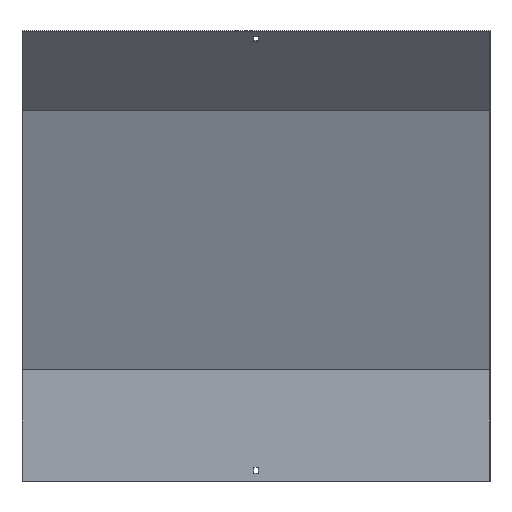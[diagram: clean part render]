
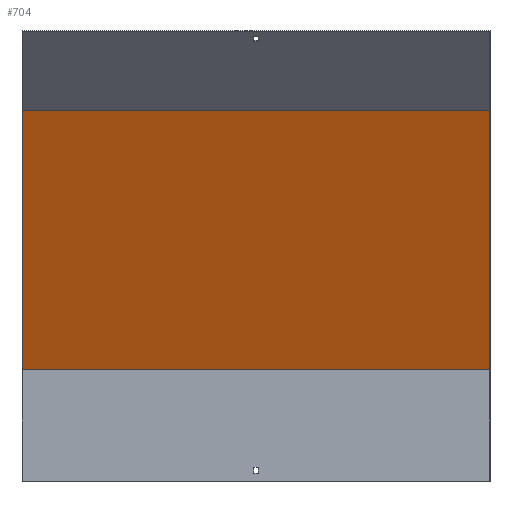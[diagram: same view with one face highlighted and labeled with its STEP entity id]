
A CAD part, front view. The second image highlights one B-rep face of the part: STEP entity #704.
In plain terms, the highlighted planar face has unit normal (0, -0.924, -0.383).
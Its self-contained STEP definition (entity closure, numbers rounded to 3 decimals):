
#5 = ORIENTED_EDGE ( 'NONE', *, *, #666, .T. ) ;
#10 = CARTESIAN_POINT ( 'NONE',  ( -350., -142.365, 557.042 ) ) ;
#42 = CARTESIAN_POINT ( 'NONE',  ( -350., 18.5, 168.68 ) ) ;
#65 = LINE ( 'NONE', #398, #214 ) ;
#85 = LINE ( 'NONE', #142, #645 ) ;
#100 = DIRECTION ( 'NONE',  ( 0., -0.383, 0.924 ) ) ;
#137 = CARTESIAN_POINT ( 'NONE',  ( 350., 75.428, 31.243 ) ) ;
#142 = CARTESIAN_POINT ( 'NONE',  ( 351.5, 18.5, 168.68 ) ) ;
#149 = CARTESIAN_POINT ( 'NONE',  ( 351.5, 17.092, 172.08 ) ) ;
#158 = EDGE_CURVE ( 'NONE', #798, #558, #813, .T. ) ;
#160 = PLANE ( 'NONE',  #848 ) ;
#197 = VERTEX_POINT ( 'NONE', #547 ) ;
#213 = LINE ( 'NONE', #137, #310 ) ;
#214 = VECTOR ( 'NONE', #401, 1000. ) ;
#310 = VECTOR ( 'NONE', #681, 1000. ) ;
#332 = ORIENTED_EDGE ( 'NONE', *, *, #158, .F. ) ;
#348 = ORIENTED_EDGE ( 'NONE', *, *, #625, .F. ) ;
#392 = EDGE_LOOP ( 'NONE', ( #332, #348, #5, #729 ) ) ;
#398 = CARTESIAN_POINT ( 'NONE',  ( 351.5, -142.365, 557.042 ) ) ;
#401 = DIRECTION ( 'NONE',  ( -1., 0., 0. ) ) ;
#421 = DIRECTION ( 'NONE',  ( 0., 0.383, -0.924 ) ) ;
#467 = EDGE_CURVE ( 'NONE', #613, #558, #65, .T. ) ;
#547 = CARTESIAN_POINT ( 'NONE',  ( 350., 18.5, 168.68 ) ) ;
#552 = FACE_OUTER_BOUND ( 'NONE', #392, .T. ) ;
#558 = VERTEX_POINT ( 'NONE', #10 ) ;
#613 = VERTEX_POINT ( 'NONE', #620 ) ;
#620 = CARTESIAN_POINT ( 'NONE',  ( 350., -142.365, 557.042 ) ) ;
#625 = EDGE_CURVE ( 'NONE', #197, #798, #85, .T. ) ;
#630 = VECTOR ( 'NONE', #100, 1000. ) ;
#645 = VECTOR ( 'NONE', #801, 1000. ) ;
#666 = EDGE_CURVE ( 'NONE', #197, #613, #213, .T. ) ;
#681 = DIRECTION ( 'NONE',  ( 0., -0.383, 0.924 ) ) ;
#704 = ADVANCED_FACE ( 'NONE', ( #552 ), #160, .T. ) ;
#729 = ORIENTED_EDGE ( 'NONE', *, *, #467, .T. ) ;
#745 = DIRECTION ( 'NONE',  ( 0., -0.924, -0.383 ) ) ;
#754 = CARTESIAN_POINT ( 'NONE',  ( -350., 75.428, 31.243 ) ) ;
#798 = VERTEX_POINT ( 'NONE', #42 ) ;
#801 = DIRECTION ( 'NONE',  ( -1., 0., 0. ) ) ;
#813 = LINE ( 'NONE', #754, #630 ) ;
#848 = AXIS2_PLACEMENT_3D ( 'NONE', #149, #745, #421 ) ;
